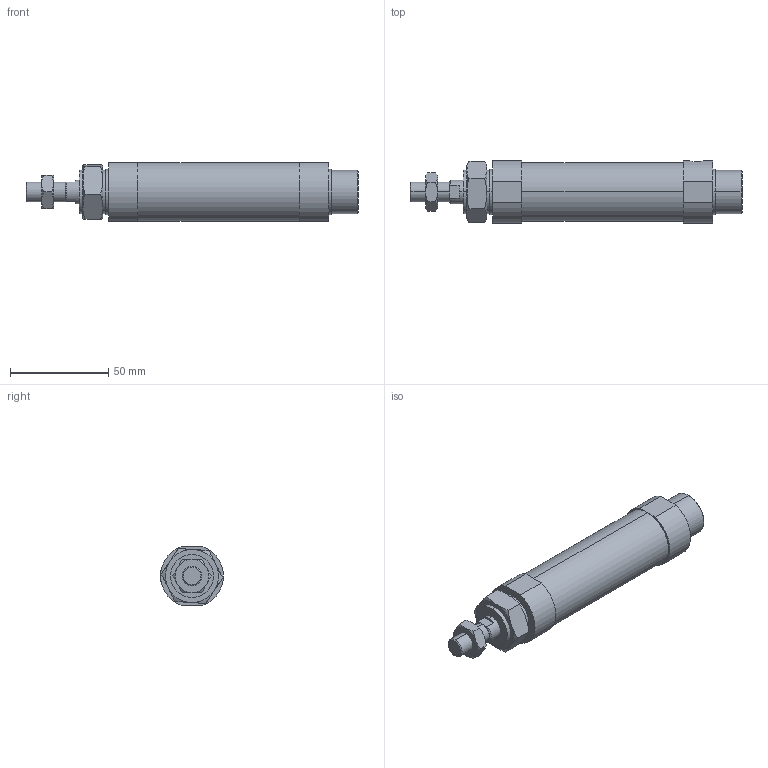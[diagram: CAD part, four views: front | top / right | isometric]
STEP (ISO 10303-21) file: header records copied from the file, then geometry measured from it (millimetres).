
FILE_DESCRIPTION (( 'STEP AP203' ), '1' );
FILE_NAME ('J#1-25-25-N.STEP', '2016-03-08T06:47:33', ( '' ), ( '' ), 'SwSTEP 2.0', 'SolidWorks 2014', '' );
FILE_SCHEMA (( 'CONFIG_CONTROL_DESIGN' ));
Length unit declared in the file: millimetre
Products named in the file (4): J#1-25-25-N; J#1-25-25
Assembly tree (3 placements, depth 2):
  J#1-25-25-N
    J#1-25-25
    (unnamed)
    (unnamed)
Bounding box: 169 x 32 x 30 mm (x, y, z)
Volume: 98356.7 mm3; surface area: 19043.3 mm2
Topology: 3 solids, 3 shells, 93 faces, 204 edges, 121 vertices
Faces by surface type: plane 37, cylinder 24, torus 24, cone 8
Entity records: 3196 total; most frequent: CARTESIAN_POINT 796, DIRECTION 426, ORIENTED_EDGE 404, EDGE_CURVE 202, AXIS2_PLACEMENT_3D 179, VERTEX_POINT 121, EDGE_LOOP 103, ADVANCED_FACE 93
